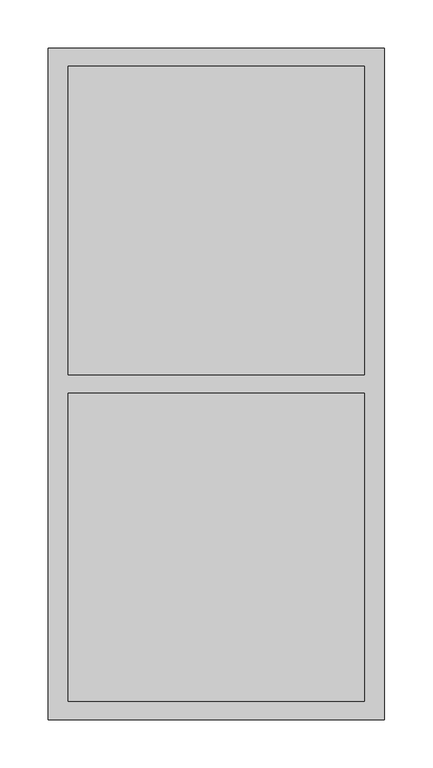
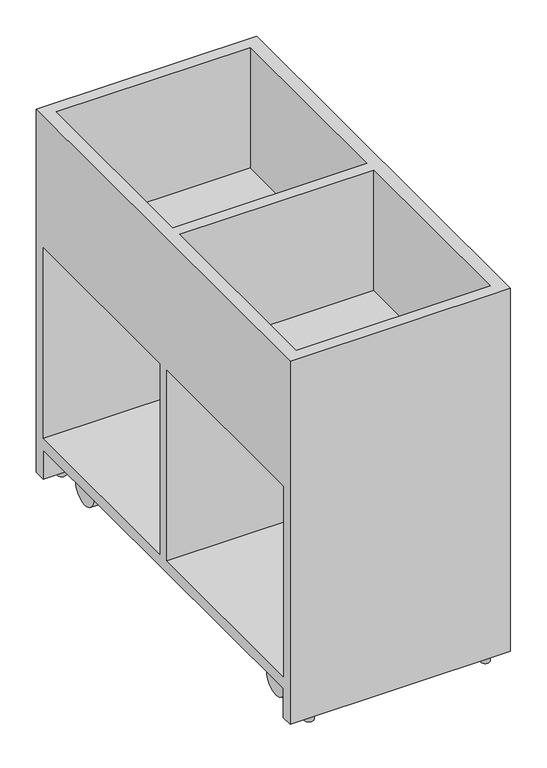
"""IFC4 building model written with IfcOpenShell, lengths in millimetres: furniture geometry, BK Library - Ella - Bookbrowser : BK Library - Ella - Bookbrowser."""

from ifc_helpers import new_model, si_unit, point, frame, frame_2d, origin, place, context, project, spatial, polyline, circle_curve, trimmed, segment, composite_curve, outline, extrude, faceted_brep, source, transform, mapped, element, save
from ifc_brep_helpers import plane_surface, cylinder_surface, advanced_brep


def furniture_69c32b00(model_context):
    return source(origin(), model_context, "Body", "SolidModel", [
        extrude(outline(composite_curve([segment(trimmed(circle_curve(frame_2d((140.0, 295.0)), 5.0), [point((140.0, 300.0))], [point((145.0, 295.0))], False, "CARTESIAN"), True, "CONTINUOUS"), segment(polyline([(145.0, 295.0), (145.0, 263.0)]), True, "CONTINUOUS"), segment(trimmed(circle_curve(frame_2d((140.0, 263.0)), 5.0), [point((145.0, 263.0))], [point((140.0, 258.0))], False, "CARTESIAN"), True, "CONTINUOUS"), segment(polyline([(140.0, 258.0), (108.0, 258.0)]), True, "CONTINUOUS"), segment(trimmed(circle_curve(frame_2d((108.0, 263.0)), 5.0), [point((108.0, 258.0))], [point((103.0, 263.0))], False, "CARTESIAN"), True, "CONTINUOUS"), segment(polyline([(103.0, 263.0), (103.0, 295.0)]), True, "CONTINUOUS"), segment(trimmed(circle_curve(frame_2d((108.0, 295.0)), 5.0), [point((103.0, 295.0))], [point((108.0, 300.0))], False, "CARTESIAN"), True, "CONTINUOUS"), segment(polyline([(108.0, 300.0), (140.0, 300.0)]), True, "CONTINUOUS")], self_intersect=False)), frame((0.0, 0.0, 57.5), z_axis=(0.0, 0.0, 1.0), x_axis=(1.0, 0.0, 0.0)), (0.0, 0.0, 1.0), 3.0),
        extrude(outline(composite_curve([segment(polyline([(140.0, -300.0), (108.0, -300.0)]), True, "CONTINUOUS"), segment(trimmed(circle_curve(frame_2d((108.0, -295.0)), 5.0), [point((108.0, -300.0))], [point((103.0, -295.0))], False, "CARTESIAN"), True, "CONTINUOUS"), segment(polyline([(103.0, -295.0), (103.0, -263.0)]), True, "CONTINUOUS"), segment(trimmed(circle_curve(frame_2d((108.0, -263.0)), 5.0), [point((103.0, -263.0))], [point((108.0, -258.0))], False, "CARTESIAN"), True, "CONTINUOUS"), segment(polyline([(108.0, -258.0), (140.0, -258.0)]), True, "CONTINUOUS"), segment(trimmed(circle_curve(frame_2d((140.0, -263.0)), 5.0), [point((140.0, -258.0))], [point((145.0, -263.0))], False, "CARTESIAN"), True, "CONTINUOUS"), segment(polyline([(145.0, -263.0), (145.0, -295.0)]), True, "CONTINUOUS"), segment(trimmed(circle_curve(frame_2d((140.0, -295.0)), 5.0), [point((145.0, -295.0))], [point((140.0, -300.0))], False, "CARTESIAN"), True, "CONTINUOUS")], self_intersect=False)), frame((0.0, 0.0, 57.5), z_axis=(0.0, 0.0, 1.0), x_axis=(1.0, 0.0, 0.0)), (0.0, 0.0, 1.0), 3.0),
        faceted_brep([(154.0, 9.5, 621.2256142), (154.0, 330.0, 621.2256142), (154.0, 330.0, 419.2256142), (154.0, 9.5, 419.2256142), (154.0, -330.0, 621.2256142), (154.0, -9.5, 621.2256142), (154.0, -9.5, 419.2256142), (154.0, -330.0, 419.2256142), (154.0, 330.0, 400.2256142), (154.0, 330.0, 80.2256142), (154.0, 9.5, 80.2256142), (154.0, 9.5, 400.2256142), (154.0, -9.5, 400.2256142), (154.0, -9.5, 80.2256142), (154.0, -330.0, 80.2256142), (154.0, -330.0, 400.2256142), (-154.0, 330.0, 621.2256142), (-154.0, 9.5, 621.2256142), (-154.0, 9.5, 419.2256142), (-154.0, 330.0, 419.2256142), (-154.0, -9.5, 621.2256142), (-154.0, -330.0, 621.2256142), (-154.0, -330.0, 419.2256142), (-154.0, -9.5, 419.2256142), (175.0, 330.0, 11.5), (175.0, 349.0, 11.5), (175.0, 349.0, 621.2256142), (175.0, -349.0, 621.2256142), (175.0, -349.0, 11.5), (175.0, -330.0, 11.5), (175.0, -330.0, 60.5), (175.0, 330.0, 60.5), (-175.0, 349.0, 621.2256142), (-175.0, 349.0, 11.5), (-175.0, 330.0, 11.5), (-175.0, 330.0, 60.5), (-175.0, -330.0, 60.5), (-175.0, -330.0, 11.5), (-175.0, -349.0, 11.5), (-175.0, -349.0, 621.2256142), (-175.0, 9.5, 80.2256142), (-175.0, 330.0, 80.2256142), (-175.0, 330.0, 400.2256142), (-175.0, 9.5, 400.2256142), (-175.0, -9.5, 400.2256142), (-175.0, -330.0, 400.2256142), (-175.0, -330.0, 80.2256142), (-175.0, -9.5, 80.2256142)], [[[0, 1, 2, 3]], [[4, 5, 6, 7]], [[8, 9, 10, 11]], [[12, 13, 14, 15]], [[16, 17, 18, 19]], [[20, 21, 22, 23]], [[24, 25, 26, 27, 28, 29, 30, 31]], [[32, 33, 34, 35, 36, 37, 38, 39], [40, 41, 42, 43], [44, 45, 46, 47]], [[42, 41, 9, 8]], [[34, 24, 31, 35]], [[1, 16, 19, 2]], [[25, 24, 34, 33]], [[26, 25, 33, 32]], [[32, 39, 27, 26], [1, 0, 17, 16], [5, 4, 21, 20]], [[41, 40, 10, 9]], [[31, 30, 36, 35]], [[40, 43, 11, 10]], [[43, 42, 8, 11]], [[2, 19, 18, 3]], [[3, 18, 17, 0]], [[5, 20, 23, 6]], [[6, 23, 22, 7]], [[7, 22, 21, 4]], [[28, 27, 39, 38]], [[29, 28, 38, 37]], [[30, 29, 37, 36]], [[44, 47, 13, 12]], [[47, 46, 14, 13]], [[46, 45, 15, 14]], [[45, 44, 12, 15]]]),
        extrude(outline(composite_curve([segment(polyline([(-140.0, 300.0), (-108.0, 300.0)]), True, "CONTINUOUS"), segment(trimmed(circle_curve(frame_2d((-108.0, 295.0)), 5.0), [point((-108.0, 300.0))], [point((-103.0, 295.0))], False, "CARTESIAN"), True, "CONTINUOUS"), segment(polyline([(-103.0, 295.0), (-103.0, 263.0)]), True, "CONTINUOUS"), segment(trimmed(circle_curve(frame_2d((-108.0, 263.0)), 5.0), [point((-103.0, 263.0))], [point((-108.0, 258.0))], False, "CARTESIAN"), True, "CONTINUOUS"), segment(polyline([(-108.0, 258.0), (-140.0, 258.0)]), True, "CONTINUOUS"), segment(trimmed(circle_curve(frame_2d((-140.0, 263.0)), 5.0), [point((-140.0, 258.0))], [point((-145.0, 263.0))], False, "CARTESIAN"), True, "CONTINUOUS"), segment(polyline([(-145.0, 263.0), (-145.0, 295.0)]), True, "CONTINUOUS"), segment(trimmed(circle_curve(frame_2d((-140.0, 295.0)), 5.0), [point((-145.0, 295.0))], [point((-140.0, 300.0))], False, "CARTESIAN"), True, "CONTINUOUS")], self_intersect=False)), frame((0.0, 0.0, 57.5), z_axis=(0.0, 0.0, 1.0), x_axis=(1.0, 0.0, 0.0)), (0.0, 0.0, 1.0), 3.0),
        extrude(outline(composite_curve([segment(trimmed(circle_curve(frame_2d((-140.0, -295.0)), 5.0), [point((-140.0, -300.0))], [point((-145.0, -295.0))], False, "CARTESIAN"), True, "CONTINUOUS"), segment(polyline([(-145.0, -295.0), (-145.0, -263.0)]), True, "CONTINUOUS"), segment(trimmed(circle_curve(frame_2d((-140.0, -263.0)), 5.0), [point((-145.0, -263.0))], [point((-140.0, -258.0))], False, "CARTESIAN"), True, "CONTINUOUS"), segment(polyline([(-140.0, -258.0), (-108.0, -258.0)]), True, "CONTINUOUS"), segment(trimmed(circle_curve(frame_2d((-108.0, -263.0)), 5.0), [point((-108.0, -258.0))], [point((-103.0, -263.0))], False, "CARTESIAN"), True, "CONTINUOUS"), segment(polyline([(-103.0, -263.0), (-103.0, -295.0)]), True, "CONTINUOUS"), segment(trimmed(circle_curve(frame_2d((-108.0, -295.0)), 5.0), [point((-103.0, -295.0))], [point((-108.0, -300.0))], False, "CARTESIAN"), True, "CONTINUOUS"), segment(polyline([(-108.0, -300.0), (-140.0, -300.0)]), True, "CONTINUOUS")], self_intersect=False)), frame((0.0, 0.0, 57.5), z_axis=(0.0, 0.0, 1.0), x_axis=(1.0, 0.0, 0.0)), (0.0, 0.0, 1.0), 3.0),
        extrude(outline(composite_curve([segment(trimmed(circle_curve(frame_2d((-140.0699503, -339.5817688)), 7.5), [point((-147.5699503, -339.5817688))], [point((-132.5699503, -339.5817688))], False, "CARTESIAN"), True, "CONTINUOUS"), segment(trimmed(circle_curve(frame_2d((-140.0699503, -339.5817688)), 7.5), [point((-132.5699503, -339.5817688))], [point((-147.5699503, -339.5817688))], False, "CARTESIAN"), True, "CONTINUOUS")], self_intersect=False)), frame((0.0, 0.0, 3.0227299), z_axis=(0.0, 0.0, 1.0), x_axis=(1.0, 0.0, 0.0)), (0.0, 0.0, 1.0), 8.5),
        extrude(outline(composite_curve([segment(trimmed(circle_curve(frame_2d((-140.0699503, 339.5817688)), 7.5), [point((-147.5699503, 339.5817688))], [point((-132.5699503, 339.5817688))], False, "CARTESIAN"), True, "CONTINUOUS"), segment(trimmed(circle_curve(frame_2d((-140.0699503, 339.5817688)), 7.5), [point((-132.5699503, 339.5817688))], [point((-147.5699503, 339.5817688))], False, "CARTESIAN"), True, "CONTINUOUS")], self_intersect=False)), frame((0.0, 0.0, 3.0227299), z_axis=(0.0, 0.0, 1.0), x_axis=(1.0, 0.0, 0.0)), (0.0, 0.0, 1.0), 8.5),
        extrude(outline(composite_curve([segment(trimmed(circle_curve(frame_2d((140.0699503, -339.5817688)), 7.5), [point((132.5699503, -339.5817688))], [point((147.5699503, -339.5817688))], False, "CARTESIAN"), True, "CONTINUOUS"), segment(trimmed(circle_curve(frame_2d((140.0699503, -339.5817688)), 7.5), [point((147.5699503, -339.5817688))], [point((132.5699503, -339.5817688))], False, "CARTESIAN"), True, "CONTINUOUS")], self_intersect=False)), frame((0.0, 0.0, 3.0227299), z_axis=(0.0, 0.0, 1.0), x_axis=(1.0, 0.0, 0.0)), (0.0, 0.0, 1.0), 8.5),
        extrude(outline(composite_curve([segment(trimmed(circle_curve(frame_2d((140.0699503, 339.5817688)), 7.5), [point((132.5699503, 339.5817688))], [point((147.5699503, 339.5817688))], False, "CARTESIAN"), True, "CONTINUOUS"), segment(trimmed(circle_curve(frame_2d((140.0699503, 339.5817688)), 7.5), [point((147.5699503, 339.5817688))], [point((132.5699503, 339.5817688))], False, "CARTESIAN"), True, "CONTINUOUS")], self_intersect=False)), frame((0.0, 0.0, 3.0227299), z_axis=(0.0, 0.0, 1.0), x_axis=(1.0, 0.0, 0.0)), (0.0, 0.0, 1.0), 8.5),
        advanced_brep(
        [(134.8, 259.8173932, 49.2209016), (113.2, 259.8173932, 49.2209016), (113.2, 237.8179223, 24.4016183), (113.2, 239.7779412, 14.6980483), (134.8, 239.7779412, 14.6980483), (134.8, 237.8179223, 24.4016183), (134.8, 259.8173932, 49.6980483), (113.2, 259.8173932, 49.6980483), (134.8, 280.4771182, 49.6980483), (113.2, 280.4771182, 49.6980483), (113.2, 280.4771182, 14.6980483), (134.8, 280.4771182, 14.6980483)],
        [
            (0, 1),
            (1, 2, circle_curve(frame((113.2, 262.8179223, 24.4016183), z_axis=(1.0, 0.0, 0.0), x_axis=(0.0, 1.0, 0.0)), 25.0)),
            (2, 3, circle_curve(frame((113.2, 262.8179223, 24.4016183), z_axis=(1.0, 0.0, 0.0), x_axis=(0.0, 1.0, 0.0)), 25.0)),
            (3, 4),
            (4, 5, circle_curve(frame((134.8, 262.8179223, 24.4016183), z_axis=(-1.0, 0.0, 0.0), x_axis=(0.0, 1.0, 0.0)), 25.0)),
            (5, 0, circle_curve(frame((134.8, 262.8179223, 24.4016183), z_axis=(-1.0, 0.0, 0.0), x_axis=(0.0, 1.0, 0.0)), 25.0)),
            (0, 6),
            (6, 7),
            (7, 1),
            (8, 9, circle_curve(frame((124.0, 278.3890569, 49.6980483), z_axis=(0.0, 0.0, 1.0), x_axis=(-1.0, 0.0, 0.0)), 11.0)),
            (9, 7),
            (6, 8),
            (10, 11, circle_curve(frame((124.0, 278.3890569, 14.6980483), z_axis=(0.0, 0.0, -1.0), x_axis=(-1.0, 0.0, 0.0)), 11.0)),
            (11, 4),
            (3, 10),
            (11, 8),
            (9, 10),
        ],
        [
            cylinder_surface(frame((149.3021081, 262.8179223, 24.4016183), z_axis=(1.0, 0.0, 0.0), x_axis=(0.0, 1.0, 0.0)), 25.0),
            plane_surface(frame((81.1806068, 259.8173932, 52.6059684), z_axis=(0.0, -1.0, 0.0), x_axis=(1.0, 0.0, 0.0))),
            plane_surface(frame((113.0, 278.3890569, 49.6980483), z_axis=(0.0, 0.0, 1.0), x_axis=(0.0, -1.0, 0.0))),
            plane_surface(frame((113.0, 278.3890569, 14.6980483), z_axis=(0.0, 0.0, -1.0), x_axis=(0.0, 1.0, 0.0))),
            plane_surface(frame((134.8, 237.8179223, 49.6980483), z_axis=(1.0, 0.0, 0.0), x_axis=(0.0, 0.0, -1.0))),
            plane_surface(frame((113.2, 280.4771182, 49.6980483), z_axis=(-1.0, 0.0, 0.0), x_axis=(0.0, 0.0, -1.0))),
            cylinder_surface(frame((124.0, 278.3890569, 14.6980483), z_axis=(0.0, 0.0, 1.0), x_axis=(-1.0, 0.0, 0.0)), 11.0),
        ],
        [
            (0, [[1, 2, 3, 4, 5, 6]]),
            (1, [[-1, 7, 8, 9]]),
            (2, [[10, 11, -8, 12]]),
            (3, [[13, 14, -4, 15]]),
            (4, [[16, -12, -7, -6, -5, -14]]),
            (5, [[17, -15, -3, -2, -9, -11]]),
            (6, [[-10, -16, -13, -17]]),
        ],
    ),
        advanced_brep(
        [(134.8, 237.8179223, 24.4016183), (134.8, 259.8173932, 49.2209016), (134.8, 287.8179223, 24.4016183), (134.8, 239.7779412, 14.6980483), (147.8, 237.8179223, 24.4016183), (147.8, 239.7779412, 14.6980483), (147.8, 287.8179223, 24.4016183), (147.8, 259.8173932, 49.2209016)],
        [
            (0, 1, circle_curve(frame((134.8, 262.8179223, 24.4016183), z_axis=(-1.0, 0.0, 0.0), x_axis=(0.0, 1.0, 0.0)), 25.0)),
            (1, 2, circle_curve(frame((134.8, 262.8179223, 24.4016183), z_axis=(-1.0, 0.0, 0.0), x_axis=(0.0, 1.0, 0.0)), 25.0)),
            (2, 3, circle_curve(frame((134.8, 262.8179223, 24.4016183), z_axis=(-1.0, 0.0, 0.0), x_axis=(0.0, 1.0, 0.0)), 25.0)),
            (3, 0, circle_curve(frame((134.8, 262.8179223, 24.4016183), z_axis=(-1.0, 0.0, 0.0), x_axis=(0.0, 1.0, 0.0)), 25.0)),
            (4, 5, circle_curve(frame((147.8, 262.8179223, 24.4016183), z_axis=(1.0, 0.0, 0.0), x_axis=(0.0, 1.0, 0.0)), 25.0)),
            (5, 6, circle_curve(frame((147.8, 262.8179223, 24.4016183), z_axis=(1.0, 0.0, 0.0), x_axis=(0.0, 1.0, 0.0)), 25.0)),
            (6, 7, circle_curve(frame((147.8, 262.8179223, 24.4016183), z_axis=(1.0, 0.0, 0.0), x_axis=(0.0, 1.0, 0.0)), 25.0)),
            (7, 4, circle_curve(frame((147.8, 262.8179223, 24.4016183), z_axis=(1.0, 0.0, 0.0), x_axis=(0.0, 1.0, 0.0)), 25.0)),
            (2, 6),
            (4, 0),
        ],
        [
            plane_surface(frame((134.8, 287.8179223, 24.4016183), z_axis=(-1.0, 0.0, 0.0), x_axis=(0.0, 0.0, -1.0))),
            plane_surface(frame((147.8, 287.8179223, 24.4016183), z_axis=(1.0, 0.0, 0.0), x_axis=(0.0, 0.0, 1.0))),
            cylinder_surface(frame((147.8, 262.8179223, 24.4016183), z_axis=(-1.0, 0.0, 0.0), x_axis=(0.0, 1.0, 0.0)), 25.0),
        ],
        [
            (0, [[1, 2, 3, 4]]),
            (1, [[5, 6, 7, 8]]),
            (2, [[9, -6, -5, 10, -4, -3]]),
            (2, [[-9, -2, -1, -10, -8, -7]]),
        ],
    ),
        advanced_brep(
        [(100.2, 237.8179223, 24.4016183), (100.2, 259.8173932, 49.2209016), (100.2, 287.8179223, 24.4016183), (100.2, 239.7779412, 14.6980483), (113.2, 237.8179223, 24.4016183), (113.2, 239.7779412, 14.6980483), (113.2, 287.8179223, 24.4016183), (113.2, 259.8173932, 49.2209016)],
        [
            (0, 1, circle_curve(frame((100.2, 262.8179223, 24.4016183), z_axis=(-1.0, 0.0, 0.0), x_axis=(0.0, 1.0, 0.0)), 25.0)),
            (1, 2, circle_curve(frame((100.2, 262.8179223, 24.4016183), z_axis=(-1.0, 0.0, 0.0), x_axis=(0.0, 1.0, 0.0)), 25.0)),
            (2, 3, circle_curve(frame((100.2, 262.8179223, 24.4016183), z_axis=(-1.0, 0.0, 0.0), x_axis=(0.0, 1.0, 0.0)), 25.0)),
            (3, 0, circle_curve(frame((100.2, 262.8179223, 24.4016183), z_axis=(-1.0, 0.0, 0.0), x_axis=(0.0, 1.0, 0.0)), 25.0)),
            (4, 5, circle_curve(frame((113.2, 262.8179223, 24.4016183), z_axis=(1.0, 0.0, 0.0), x_axis=(0.0, 1.0, 0.0)), 25.0)),
            (5, 6, circle_curve(frame((113.2, 262.8179223, 24.4016183), z_axis=(1.0, 0.0, 0.0), x_axis=(0.0, 1.0, 0.0)), 25.0)),
            (6, 7, circle_curve(frame((113.2, 262.8179223, 24.4016183), z_axis=(1.0, 0.0, 0.0), x_axis=(0.0, 1.0, 0.0)), 25.0)),
            (7, 4, circle_curve(frame((113.2, 262.8179223, 24.4016183), z_axis=(1.0, 0.0, 0.0), x_axis=(0.0, 1.0, 0.0)), 25.0)),
            (2, 6),
            (4, 0),
        ],
        [
            plane_surface(frame((100.2, 287.8179223, 24.4016183), z_axis=(-1.0, 0.0, 0.0), x_axis=(0.0, 0.0, -1.0))),
            plane_surface(frame((113.2, 287.8179223, 24.4016183), z_axis=(1.0, 0.0, 0.0), x_axis=(0.0, 0.0, 1.0))),
            cylinder_surface(frame((113.2, 262.8179223, 24.4016183), z_axis=(-1.0, 0.0, 0.0), x_axis=(0.0, 1.0, 0.0)), 25.0),
        ],
        [
            (0, [[1, 2, 3, 4]]),
            (1, [[5, 6, 7, 8]]),
            (2, [[9, -6, -5, 10, -4, -3]]),
            (2, [[-9, -2, -1, -10, -8, -7]]),
        ],
    ),
        advanced_brep(
        [(113.2, -259.8173932, 49.2209016), (134.8, -259.8173932, 49.2209016), (134.8, -237.8179223, 24.4016183), (134.8, -239.7779412, 14.6980483), (113.2, -239.7779412, 14.6980483), (113.2, -237.8179223, 24.4016183), (113.2, -259.8173932, 49.6980483), (134.8, -259.8173932, 49.6980483), (113.2, -280.4771182, 49.6980483), (134.8, -280.4771182, 49.6980483), (134.8, -280.4771182, 14.6980483), (113.2, -280.4771182, 14.6980483)],
        [
            (0, 1),
            (1, 2, circle_curve(frame((134.8, -262.8179223, 24.4016183), z_axis=(-1.0, 0.0, 0.0), x_axis=(0.0, -1.0, 0.0)), 25.0)),
            (2, 3, circle_curve(frame((134.8, -262.8179223, 24.4016183), z_axis=(-1.0, 0.0, 0.0), x_axis=(0.0, -1.0, 0.0)), 25.0)),
            (3, 4),
            (4, 5, circle_curve(frame((113.2, -262.8179223, 24.4016183), z_axis=(1.0, 0.0, 0.0), x_axis=(0.0, -1.0, 0.0)), 25.0)),
            (5, 0, circle_curve(frame((113.2, -262.8179223, 24.4016183), z_axis=(1.0, 0.0, 0.0), x_axis=(0.0, -1.0, 0.0)), 25.0)),
            (0, 6),
            (6, 7),
            (7, 1),
            (8, 9, circle_curve(frame((124.0, -278.3890569, 49.6980483), z_axis=(0.0, 0.0, 1.0), x_axis=(-1.0, 0.0, 0.0)), 11.0)),
            (9, 7),
            (6, 8),
            (10, 11, circle_curve(frame((124.0, -278.3890569, 14.6980483), z_axis=(0.0, 0.0, -1.0), x_axis=(-1.0, 0.0, 0.0)), 11.0)),
            (11, 4),
            (3, 10),
            (9, 10),
            (11, 8),
        ],
        [
            cylinder_surface(frame((149.3021081, -262.8179223, 24.4016183), z_axis=(1.0, 0.0, 0.0), x_axis=(0.0, -1.0, 0.0)), 25.0),
            plane_surface(frame((81.1806068, -259.8173932, 49.2209016), z_axis=(0.0, 1.0, 0.0), x_axis=(1.0, 0.0, 0.0))),
            plane_surface(frame((134.8, -237.8179223, 49.6980483), z_axis=(0.0, 0.0, 1.0), x_axis=(0.0, 1.0, 0.0))),
            plane_surface(frame((134.8, -237.8179223, 14.6980483), z_axis=(0.0, 0.0, -1.0), x_axis=(0.0, -1.0, 0.0))),
            plane_surface(frame((134.8, -280.4771182, 49.6980483), z_axis=(1.0, 0.0, 0.0), x_axis=(0.0, 0.0, -1.0))),
            plane_surface(frame((113.2, -237.8179223, 49.6980483), z_axis=(-1.0, 0.0, 0.0), x_axis=(0.0, 0.0, -1.0))),
            cylinder_surface(frame((124.0, -278.3890569, 14.6980483), z_axis=(0.0, 0.0, 1.0), x_axis=(-1.0, 0.0, 0.0)), 11.0),
        ],
        [
            (0, [[1, 2, 3, 4, 5, 6]]),
            (1, [[-1, 7, 8, 9]]),
            (2, [[10, 11, -8, 12]]),
            (3, [[13, 14, -4, 15]]),
            (4, [[16, -15, -3, -2, -9, -11]]),
            (5, [[17, -12, -7, -6, -5, -14]]),
            (6, [[-10, -17, -13, -16]]),
        ],
    ),
        advanced_brep(
        [(134.8, -237.8179223, 24.4016183), (134.8, -239.7779412, 14.6980483), (134.8, -287.8179223, 24.4016183), (134.8, -259.8173932, 49.2209016), (147.8, -237.8179223, 24.4016183), (147.8, -259.8173932, 49.2209016), (147.8, -287.8179223, 24.4016183), (147.8, -239.7779412, 14.6980483)],
        [
            (0, 1, circle_curve(frame((134.8, -262.8179223, 24.4016183), z_axis=(-1.0, 0.0, 0.0), x_axis=(0.0, -1.0, 0.0)), 25.0)),
            (1, 2, circle_curve(frame((134.8, -262.8179223, 24.4016183), z_axis=(-1.0, 0.0, 0.0), x_axis=(0.0, -1.0, 0.0)), 25.0)),
            (2, 3, circle_curve(frame((134.8, -262.8179223, 24.4016183), z_axis=(-1.0, 0.0, 0.0), x_axis=(0.0, -1.0, 0.0)), 25.0)),
            (3, 0, circle_curve(frame((134.8, -262.8179223, 24.4016183), z_axis=(-1.0, 0.0, 0.0), x_axis=(0.0, -1.0, 0.0)), 25.0)),
            (4, 5, circle_curve(frame((147.8, -262.8179223, 24.4016183), z_axis=(1.0, 0.0, 0.0), x_axis=(0.0, -1.0, 0.0)), 25.0)),
            (5, 6, circle_curve(frame((147.8, -262.8179223, 24.4016183), z_axis=(1.0, 0.0, 0.0), x_axis=(0.0, -1.0, 0.0)), 25.0)),
            (6, 7, circle_curve(frame((147.8, -262.8179223, 24.4016183), z_axis=(1.0, 0.0, 0.0), x_axis=(0.0, -1.0, 0.0)), 25.0)),
            (7, 4, circle_curve(frame((147.8, -262.8179223, 24.4016183), z_axis=(1.0, 0.0, 0.0), x_axis=(0.0, -1.0, 0.0)), 25.0)),
            (0, 4),
            (6, 2),
        ],
        [
            plane_surface(frame((134.8, -287.8179223, 24.4016183), z_axis=(-1.0, 0.0, 0.0), x_axis=(0.0, 0.0, 1.0))),
            plane_surface(frame((147.8, -287.8179223, 24.4016183), z_axis=(1.0, 0.0, 0.0), x_axis=(0.0, 0.0, -1.0))),
            cylinder_surface(frame((147.8, -262.8179223, 24.4016183), z_axis=(-1.0, 0.0, 0.0), x_axis=(0.0, -1.0, 0.0)), 25.0),
        ],
        [
            (0, [[1, 2, 3, 4]]),
            (1, [[5, 6, 7, 8]]),
            (2, [[9, -8, -7, 10, -2, -1]]),
            (2, [[-9, -4, -3, -10, -6, -5]]),
        ],
    ),
        advanced_brep(
        [(100.2, -237.8179223, 24.4016183), (100.2, -239.7779412, 14.6980483), (100.2, -287.8179223, 24.4016183), (100.2, -259.8173932, 49.2209016), (113.2, -237.8179223, 24.4016183), (113.2, -259.8173932, 49.2209016), (113.2, -287.8179223, 24.4016183), (113.2, -239.7779412, 14.6980483)],
        [
            (0, 1, circle_curve(frame((100.2, -262.8179223, 24.4016183), z_axis=(-1.0, 0.0, 0.0), x_axis=(0.0, -1.0, 0.0)), 25.0)),
            (1, 2, circle_curve(frame((100.2, -262.8179223, 24.4016183), z_axis=(-1.0, 0.0, 0.0), x_axis=(0.0, -1.0, 0.0)), 25.0)),
            (2, 3, circle_curve(frame((100.2, -262.8179223, 24.4016183), z_axis=(-1.0, 0.0, 0.0), x_axis=(0.0, -1.0, 0.0)), 25.0)),
            (3, 0, circle_curve(frame((100.2, -262.8179223, 24.4016183), z_axis=(-1.0, 0.0, 0.0), x_axis=(0.0, -1.0, 0.0)), 25.0)),
            (4, 5, circle_curve(frame((113.2, -262.8179223, 24.4016183), z_axis=(1.0, 0.0, 0.0), x_axis=(0.0, -1.0, 0.0)), 25.0)),
            (5, 6, circle_curve(frame((113.2, -262.8179223, 24.4016183), z_axis=(1.0, 0.0, 0.0), x_axis=(0.0, -1.0, 0.0)), 25.0)),
            (6, 7, circle_curve(frame((113.2, -262.8179223, 24.4016183), z_axis=(1.0, 0.0, 0.0), x_axis=(0.0, -1.0, 0.0)), 25.0)),
            (7, 4, circle_curve(frame((113.2, -262.8179223, 24.4016183), z_axis=(1.0, 0.0, 0.0), x_axis=(0.0, -1.0, 0.0)), 25.0)),
            (0, 4),
            (6, 2),
        ],
        [
            plane_surface(frame((100.2, -287.8179223, 24.4016183), z_axis=(-1.0, 0.0, 0.0), x_axis=(0.0, 0.0, 1.0))),
            plane_surface(frame((113.2, -287.8179223, 24.4016183), z_axis=(1.0, 0.0, 0.0), x_axis=(0.0, 0.0, -1.0))),
            cylinder_surface(frame((113.2, -262.8179223, 24.4016183), z_axis=(-1.0, 0.0, 0.0), x_axis=(0.0, -1.0, 0.0)), 25.0),
        ],
        [
            (0, [[1, 2, 3, 4]]),
            (1, [[5, 6, 7, 8]]),
            (2, [[9, -8, -7, 10, -2, -1]]),
            (2, [[-9, -4, -3, -10, -6, -5]]),
        ],
    ),
        extrude(outline(composite_curve([segment(trimmed(circle_curve(frame_2d((124.0, 278.3890569)), 6.9282032), [point((130.9282032, 278.3890569))], [point((117.0717968, 278.3890569))], False, "CARTESIAN"), True, "CONTINUOUS"), segment(trimmed(circle_curve(frame_2d((124.0, 278.3890569)), 6.9282032), [point((117.0717968, 278.3890569))], [point((130.9282032, 278.3890569))], False, "CARTESIAN"), True, "CONTINUOUS")], self_intersect=False)), frame((0.0, 0.0, 49.639875), z_axis=(0.0, 0.0, 1.0), x_axis=(1.0, 0.0, 0.0)), (0.0, 0.0, 1.0), 7.860125),
        extrude(outline(composite_curve([segment(trimmed(circle_curve(frame_2d((124.0, -278.3890569)), 6.9282032), [point((130.9282032, -278.3890569))], [point((117.0717968, -278.3890569))], False, "CARTESIAN"), True, "CONTINUOUS"), segment(trimmed(circle_curve(frame_2d((124.0, -278.3890569)), 6.9282032), [point((117.0717968, -278.3890569))], [point((130.9282032, -278.3890569))], False, "CARTESIAN"), True, "CONTINUOUS")], self_intersect=False)), frame((0.0, 0.0, 49.639875), z_axis=(0.0, 0.0, 1.0), x_axis=(1.0, 0.0, 0.0)), (0.0, 0.0, 1.0), 7.860125),
        advanced_brep(
        [(-113.2, 259.8173932, 49.2209016), (-134.8, 259.8173932, 49.2209016), (-134.8, 237.8179223, 24.4016183), (-134.8, 239.7779412, 14.6980483), (-113.2, 239.7779412, 14.6980483), (-113.2, 237.8179223, 24.4016183), (-113.2, 259.8173932, 49.6980483), (-134.8, 259.8173932, 49.6980483), (-113.2, 280.4771182, 49.6980483), (-134.8, 280.4771182, 49.6980483), (-134.8, 280.4771182, 14.6980483), (-113.2, 280.4771182, 14.6980483)],
        [
            (0, 1),
            (1, 2, circle_curve(frame((-134.8, 262.8179223, 24.4016183), z_axis=(1.0, 0.0, 0.0), x_axis=(0.0, 1.0, 0.0)), 25.0)),
            (2, 3, circle_curve(frame((-134.8, 262.8179223, 24.4016183), z_axis=(1.0, 0.0, 0.0), x_axis=(0.0, 1.0, 0.0)), 25.0)),
            (3, 4),
            (4, 5, circle_curve(frame((-113.2, 262.8179223, 24.4016183), z_axis=(-1.0, 0.0, 0.0), x_axis=(0.0, 1.0, 0.0)), 25.0)),
            (5, 0, circle_curve(frame((-113.2, 262.8179223, 24.4016183), z_axis=(-1.0, 0.0, 0.0), x_axis=(0.0, 1.0, 0.0)), 25.0)),
            (0, 6),
            (6, 7),
            (7, 1),
            (8, 9, circle_curve(frame((-124.0, 278.3890569, 49.6980483), z_axis=(0.0, 0.0, 1.0), x_axis=(1.0, 0.0, 0.0)), 11.0)),
            (9, 7),
            (6, 8),
            (10, 11, circle_curve(frame((-124.0, 278.3890569, 14.6980483), z_axis=(0.0, 0.0, -1.0), x_axis=(1.0, 0.0, 0.0)), 11.0)),
            (11, 4),
            (3, 10),
            (9, 10),
            (11, 8),
        ],
        [
            cylinder_surface(frame((-149.3021081, 262.8179223, 24.4016183), z_axis=(-1.0, 0.0, 0.0), x_axis=(0.0, 1.0, 0.0)), 25.0),
            plane_surface(frame((-81.1806068, 259.8173932, 49.2209016), z_axis=(0.0, -1.0, 0.0), x_axis=(-1.0, 0.0, 0.0))),
            plane_surface(frame((-134.8, 237.8179223, 49.6980483), z_axis=(0.0, 0.0, 1.0), x_axis=(0.0, -1.0, 0.0))),
            plane_surface(frame((-134.8, 237.8179223, 14.6980483), z_axis=(0.0, 0.0, -1.0), x_axis=(0.0, 1.0, 0.0))),
            plane_surface(frame((-134.8, 280.4771182, 49.6980483), z_axis=(-1.0, 0.0, 0.0), x_axis=(0.0, 0.0, -1.0))),
            plane_surface(frame((-113.2, 237.8179223, 49.6980483), z_axis=(1.0, 0.0, 0.0), x_axis=(0.0, 0.0, -1.0))),
            cylinder_surface(frame((-124.0, 278.3890569, 14.6980483), z_axis=(0.0, 0.0, 1.0), x_axis=(1.0, 0.0, 0.0)), 11.0),
        ],
        [
            (0, [[1, 2, 3, 4, 5, 6]]),
            (1, [[-1, 7, 8, 9]]),
            (2, [[10, 11, -8, 12]]),
            (3, [[13, 14, -4, 15]]),
            (4, [[16, -15, -3, -2, -9, -11]]),
            (5, [[17, -12, -7, -6, -5, -14]]),
            (6, [[-10, -17, -13, -16]]),
        ],
    ),
        advanced_brep(
        [(-134.8, 237.8179223, 24.4016183), (-134.8, 239.7779412, 14.6980483), (-134.8, 287.8179223, 24.4016183), (-134.8, 259.8173932, 49.2209016), (-147.8, 237.8179223, 24.4016183), (-147.8, 259.8173932, 49.2209016), (-147.8, 287.8179223, 24.4016183), (-147.8, 239.7779412, 14.6980483)],
        [
            (0, 1, circle_curve(frame((-134.8, 262.8179223, 24.4016183), z_axis=(1.0, 0.0, 0.0), x_axis=(0.0, 1.0, 0.0)), 25.0)),
            (1, 2, circle_curve(frame((-134.8, 262.8179223, 24.4016183), z_axis=(1.0, 0.0, 0.0), x_axis=(0.0, 1.0, 0.0)), 25.0)),
            (2, 3, circle_curve(frame((-134.8, 262.8179223, 24.4016183), z_axis=(1.0, 0.0, 0.0), x_axis=(0.0, 1.0, 0.0)), 25.0)),
            (3, 0, circle_curve(frame((-134.8, 262.8179223, 24.4016183), z_axis=(1.0, 0.0, 0.0), x_axis=(0.0, 1.0, 0.0)), 25.0)),
            (4, 5, circle_curve(frame((-147.8, 262.8179223, 24.4016183), z_axis=(-1.0, 0.0, 0.0), x_axis=(0.0, 1.0, 0.0)), 25.0)),
            (5, 6, circle_curve(frame((-147.8, 262.8179223, 24.4016183), z_axis=(-1.0, 0.0, 0.0), x_axis=(0.0, 1.0, 0.0)), 25.0)),
            (6, 7, circle_curve(frame((-147.8, 262.8179223, 24.4016183), z_axis=(-1.0, 0.0, 0.0), x_axis=(0.0, 1.0, 0.0)), 25.0)),
            (7, 4, circle_curve(frame((-147.8, 262.8179223, 24.4016183), z_axis=(-1.0, 0.0, 0.0), x_axis=(0.0, 1.0, 0.0)), 25.0)),
            (0, 4),
            (6, 2),
        ],
        [
            plane_surface(frame((-134.8, 287.8179223, 24.4016183), z_axis=(1.0, 0.0, 0.0), x_axis=(0.0, 0.0, 1.0))),
            plane_surface(frame((-147.8, 287.8179223, 24.4016183), z_axis=(-1.0, 0.0, 0.0), x_axis=(0.0, 0.0, -1.0))),
            cylinder_surface(frame((-147.8, 262.8179223, 24.4016183), z_axis=(1.0, 0.0, 0.0), x_axis=(0.0, 1.0, 0.0)), 25.0),
        ],
        [
            (0, [[1, 2, 3, 4]]),
            (1, [[5, 6, 7, 8]]),
            (2, [[9, -8, -7, 10, -2, -1]]),
            (2, [[-9, -4, -3, -10, -6, -5]]),
        ],
    ),
        advanced_brep(
        [(-100.2, 237.8179223, 24.4016183), (-100.2, 239.7779412, 14.6980483), (-100.2, 287.8179223, 24.4016183), (-100.2, 259.8173932, 49.2209016), (-113.2, 237.8179223, 24.4016183), (-113.2, 259.8173932, 49.2209016), (-113.2, 287.8179223, 24.4016183), (-113.2, 239.7779412, 14.6980483)],
        [
            (0, 1, circle_curve(frame((-100.2, 262.8179223, 24.4016183), z_axis=(1.0, 0.0, 0.0), x_axis=(0.0, 1.0, 0.0)), 25.0)),
            (1, 2, circle_curve(frame((-100.2, 262.8179223, 24.4016183), z_axis=(1.0, 0.0, 0.0), x_axis=(0.0, 1.0, 0.0)), 25.0)),
            (2, 3, circle_curve(frame((-100.2, 262.8179223, 24.4016183), z_axis=(1.0, 0.0, 0.0), x_axis=(0.0, 1.0, 0.0)), 25.0)),
            (3, 0, circle_curve(frame((-100.2, 262.8179223, 24.4016183), z_axis=(1.0, 0.0, 0.0), x_axis=(0.0, 1.0, 0.0)), 25.0)),
            (4, 5, circle_curve(frame((-113.2, 262.8179223, 24.4016183), z_axis=(-1.0, 0.0, 0.0), x_axis=(0.0, 1.0, 0.0)), 25.0)),
            (5, 6, circle_curve(frame((-113.2, 262.8179223, 24.4016183), z_axis=(-1.0, 0.0, 0.0), x_axis=(0.0, 1.0, 0.0)), 25.0)),
            (6, 7, circle_curve(frame((-113.2, 262.8179223, 24.4016183), z_axis=(-1.0, 0.0, 0.0), x_axis=(0.0, 1.0, 0.0)), 25.0)),
            (7, 4, circle_curve(frame((-113.2, 262.8179223, 24.4016183), z_axis=(-1.0, 0.0, 0.0), x_axis=(0.0, 1.0, 0.0)), 25.0)),
            (0, 4),
            (6, 2),
        ],
        [
            plane_surface(frame((-100.2, 287.8179223, 24.4016183), z_axis=(1.0, 0.0, 0.0), x_axis=(0.0, 0.0, 1.0))),
            plane_surface(frame((-113.2, 287.8179223, 24.4016183), z_axis=(-1.0, 0.0, 0.0), x_axis=(0.0, 0.0, -1.0))),
            cylinder_surface(frame((-113.2, 262.8179223, 24.4016183), z_axis=(1.0, 0.0, 0.0), x_axis=(0.0, 1.0, 0.0)), 25.0),
        ],
        [
            (0, [[1, 2, 3, 4]]),
            (1, [[5, 6, 7, 8]]),
            (2, [[9, -8, -7, 10, -2, -1]]),
            (2, [[-9, -4, -3, -10, -6, -5]]),
        ],
    ),
        extrude(outline(composite_curve([segment(trimmed(circle_curve(frame_2d((-124.0, 278.3890569)), 6.9282032), [point((-130.9282032, 278.3890569))], [point((-117.0717968, 278.3890569))], False, "CARTESIAN"), True, "CONTINUOUS"), segment(trimmed(circle_curve(frame_2d((-124.0, 278.3890569)), 6.9282032), [point((-117.0717968, 278.3890569))], [point((-130.9282032, 278.3890569))], False, "CARTESIAN"), True, "CONTINUOUS")], self_intersect=False)), frame((0.0, 0.0, 49.639875), z_axis=(0.0, 0.0, 1.0), x_axis=(1.0, 0.0, 0.0)), (0.0, 0.0, 1.0), 7.860125),
        advanced_brep(
        [(-134.8, -259.8173932, 49.2209016), (-113.2, -259.8173932, 49.2209016), (-113.2, -237.8179223, 24.4016183), (-113.2, -239.7779412, 14.6980483), (-134.8, -239.7779412, 14.6980483), (-134.8, -237.8179223, 24.4016183), (-134.8, -259.8173932, 49.6980483), (-113.2, -259.8173932, 49.6980483), (-134.8, -280.4771182, 49.6980483), (-113.2, -280.4771182, 49.6980483), (-113.2, -280.4771182, 14.6980483), (-134.8, -280.4771182, 14.6980483)],
        [
            (0, 1),
            (1, 2, circle_curve(frame((-113.2, -262.8179223, 24.4016183), z_axis=(-1.0, 0.0, 0.0), x_axis=(0.0, -1.0, 0.0)), 25.0)),
            (2, 3, circle_curve(frame((-113.2, -262.8179223, 24.4016183), z_axis=(-1.0, 0.0, 0.0), x_axis=(0.0, -1.0, 0.0)), 25.0)),
            (3, 4),
            (4, 5, circle_curve(frame((-134.8, -262.8179223, 24.4016183), z_axis=(1.0, 0.0, 0.0), x_axis=(0.0, -1.0, 0.0)), 25.0)),
            (5, 0, circle_curve(frame((-134.8, -262.8179223, 24.4016183), z_axis=(1.0, 0.0, 0.0), x_axis=(0.0, -1.0, 0.0)), 25.0)),
            (0, 6),
            (6, 7),
            (7, 1),
            (8, 9, circle_curve(frame((-124.0, -278.3890569, 49.6980483), z_axis=(0.0, 0.0, 1.0), x_axis=(1.0, 0.0, 0.0)), 11.0)),
            (9, 7),
            (6, 8),
            (10, 11, circle_curve(frame((-124.0, -278.3890569, 14.6980483), z_axis=(0.0, 0.0, -1.0), x_axis=(1.0, 0.0, 0.0)), 11.0)),
            (11, 4),
            (3, 10),
            (11, 8),
            (9, 10),
        ],
        [
            cylinder_surface(frame((-149.3021081, -262.8179223, 24.4016183), z_axis=(-1.0, 0.0, 0.0), x_axis=(0.0, -1.0, 0.0)), 25.0),
            plane_surface(frame((-81.1806068, -259.8173932, 52.6059684), z_axis=(0.0, 1.0, 0.0), x_axis=(-1.0, 0.0, 0.0))),
            plane_surface(frame((-113.0, -278.3890569, 49.6980483), z_axis=(0.0, 0.0, 1.0), x_axis=(0.0, 1.0, 0.0))),
            plane_surface(frame((-113.0, -278.3890569, 14.6980483), z_axis=(0.0, 0.0, -1.0), x_axis=(0.0, -1.0, 0.0))),
            plane_surface(frame((-134.8, -237.8179223, 49.6980483), z_axis=(-1.0, 0.0, 0.0), x_axis=(0.0, 0.0, -1.0))),
            plane_surface(frame((-113.2, -280.4771182, 49.6980483), z_axis=(1.0, 0.0, 0.0), x_axis=(0.0, 0.0, -1.0))),
            cylinder_surface(frame((-124.0, -278.3890569, 14.6980483), z_axis=(0.0, 0.0, 1.0), x_axis=(1.0, 0.0, 0.0)), 11.0),
        ],
        [
            (0, [[1, 2, 3, 4, 5, 6]]),
            (1, [[-1, 7, 8, 9]]),
            (2, [[10, 11, -8, 12]]),
            (3, [[13, 14, -4, 15]]),
            (4, [[16, -12, -7, -6, -5, -14]]),
            (5, [[17, -15, -3, -2, -9, -11]]),
            (6, [[-10, -16, -13, -17]]),
        ],
    ),
        advanced_brep(
        [(-134.8, -237.8179223, 24.4016183), (-134.8, -259.8173932, 49.2209016), (-134.8, -287.8179223, 24.4016183), (-134.8, -239.7779412, 14.6980483), (-147.8, -237.8179223, 24.4016183), (-147.8, -239.7779412, 14.6980483), (-147.8, -287.8179223, 24.4016183), (-147.8, -259.8173932, 49.2209016)],
        [
            (0, 1, circle_curve(frame((-134.8, -262.8179223, 24.4016183), z_axis=(1.0, 0.0, 0.0), x_axis=(0.0, -1.0, 0.0)), 25.0)),
            (1, 2, circle_curve(frame((-134.8, -262.8179223, 24.4016183), z_axis=(1.0, 0.0, 0.0), x_axis=(0.0, -1.0, 0.0)), 25.0)),
            (2, 3, circle_curve(frame((-134.8, -262.8179223, 24.4016183), z_axis=(1.0, 0.0, 0.0), x_axis=(0.0, -1.0, 0.0)), 25.0)),
            (3, 0, circle_curve(frame((-134.8, -262.8179223, 24.4016183), z_axis=(1.0, 0.0, 0.0), x_axis=(0.0, -1.0, 0.0)), 25.0)),
            (4, 5, circle_curve(frame((-147.8, -262.8179223, 24.4016183), z_axis=(-1.0, 0.0, 0.0), x_axis=(0.0, -1.0, 0.0)), 25.0)),
            (5, 6, circle_curve(frame((-147.8, -262.8179223, 24.4016183), z_axis=(-1.0, 0.0, 0.0), x_axis=(0.0, -1.0, 0.0)), 25.0)),
            (6, 7, circle_curve(frame((-147.8, -262.8179223, 24.4016183), z_axis=(-1.0, 0.0, 0.0), x_axis=(0.0, -1.0, 0.0)), 25.0)),
            (7, 4, circle_curve(frame((-147.8, -262.8179223, 24.4016183), z_axis=(-1.0, 0.0, 0.0), x_axis=(0.0, -1.0, 0.0)), 25.0)),
            (2, 6),
            (4, 0),
        ],
        [
            plane_surface(frame((-134.8, -287.8179223, 24.4016183), z_axis=(1.0, 0.0, 0.0), x_axis=(0.0, 0.0, -1.0))),
            plane_surface(frame((-147.8, -287.8179223, 24.4016183), z_axis=(-1.0, 0.0, 0.0), x_axis=(0.0, 0.0, 1.0))),
            cylinder_surface(frame((-147.8, -262.8179223, 24.4016183), z_axis=(1.0, 0.0, 0.0), x_axis=(0.0, -1.0, 0.0)), 25.0),
        ],
        [
            (0, [[1, 2, 3, 4]]),
            (1, [[5, 6, 7, 8]]),
            (2, [[9, -6, -5, 10, -4, -3]]),
            (2, [[-9, -2, -1, -10, -8, -7]]),
        ],
    ),
        advanced_brep(
        [(-100.2, -237.8179223, 24.4016183), (-100.2, -259.8173932, 49.2209016), (-100.2, -287.8179223, 24.4016183), (-100.2, -239.7779412, 14.6980483), (-113.2, -237.8179223, 24.4016183), (-113.2, -239.7779412, 14.6980483), (-113.2, -287.8179223, 24.4016183), (-113.2, -259.8173932, 49.2209016)],
        [
            (0, 1, circle_curve(frame((-100.2, -262.8179223, 24.4016183), z_axis=(1.0, 0.0, 0.0), x_axis=(0.0, -1.0, 0.0)), 25.0)),
            (1, 2, circle_curve(frame((-100.2, -262.8179223, 24.4016183), z_axis=(1.0, 0.0, 0.0), x_axis=(0.0, -1.0, 0.0)), 25.0)),
            (2, 3, circle_curve(frame((-100.2, -262.8179223, 24.4016183), z_axis=(1.0, 0.0, 0.0), x_axis=(0.0, -1.0, 0.0)), 25.0)),
            (3, 0, circle_curve(frame((-100.2, -262.8179223, 24.4016183), z_axis=(1.0, 0.0, 0.0), x_axis=(0.0, -1.0, 0.0)), 25.0)),
            (4, 5, circle_curve(frame((-113.2, -262.8179223, 24.4016183), z_axis=(-1.0, 0.0, 0.0), x_axis=(0.0, -1.0, 0.0)), 25.0)),
            (5, 6, circle_curve(frame((-113.2, -262.8179223, 24.4016183), z_axis=(-1.0, 0.0, 0.0), x_axis=(0.0, -1.0, 0.0)), 25.0)),
            (6, 7, circle_curve(frame((-113.2, -262.8179223, 24.4016183), z_axis=(-1.0, 0.0, 0.0), x_axis=(0.0, -1.0, 0.0)), 25.0)),
            (7, 4, circle_curve(frame((-113.2, -262.8179223, 24.4016183), z_axis=(-1.0, 0.0, 0.0), x_axis=(0.0, -1.0, 0.0)), 25.0)),
            (2, 6),
            (4, 0),
        ],
        [
            plane_surface(frame((-100.2, -287.8179223, 24.4016183), z_axis=(1.0, 0.0, 0.0), x_axis=(0.0, 0.0, -1.0))),
            plane_surface(frame((-113.2, -287.8179223, 24.4016183), z_axis=(-1.0, 0.0, 0.0), x_axis=(0.0, 0.0, 1.0))),
            cylinder_surface(frame((-113.2, -262.8179223, 24.4016183), z_axis=(1.0, 0.0, 0.0), x_axis=(0.0, -1.0, 0.0)), 25.0),
        ],
        [
            (0, [[1, 2, 3, 4]]),
            (1, [[5, 6, 7, 8]]),
            (2, [[9, -6, -5, 10, -4, -3]]),
            (2, [[-9, -2, -1, -10, -8, -7]]),
        ],
    ),
        extrude(outline(composite_curve([segment(trimmed(circle_curve(frame_2d((-124.0, -278.3890569)), 6.9282032), [point((-130.9282032, -278.3890569))], [point((-117.0717968, -278.3890569))], False, "CARTESIAN"), True, "CONTINUOUS"), segment(trimmed(circle_curve(frame_2d((-124.0, -278.3890569)), 6.9282032), [point((-117.0717968, -278.3890569))], [point((-130.9282032, -278.3890569))], False, "CARTESIAN"), True, "CONTINUOUS")], self_intersect=False)), frame((0.0, 0.0, 49.639875), z_axis=(0.0, 0.0, 1.0), x_axis=(1.0, 0.0, 0.0)), (0.0, 0.0, 1.0), 7.860125),
    ])


if __name__ == "__main__":
    model = new_model("IFC4")
    model_context = context("Model", 3, world=origin())
    ifc_project = project(units=[si_unit("LENGTHUNIT", "METRE", prefix="MILLI")], contexts=[model_context])
    site = spatial("IfcSite", under=ifc_project)
    building = spatial("IfcBuilding", under=site)
    placement = place(None, origin())
    furniture_shape = furniture_69c32b00(model_context)
    element("IfcFurniture", 1, ObjectType="BK Library - Ella - Bookbrowser : BK Library - Ella - Bookbrowser", at=placement, inside=building, context=model_context, shape_type="MappedRepresentation", body=[
        mapped(furniture_shape, transform((0.0, 0.0, 0.0), x_axis=(1.0, 0.0, 0.0), y_axis=(0.0, 1.0, 0.0), z_axis=(0.0, 0.0, 1.0))),
    ])
    save(model, "model.ifc")
